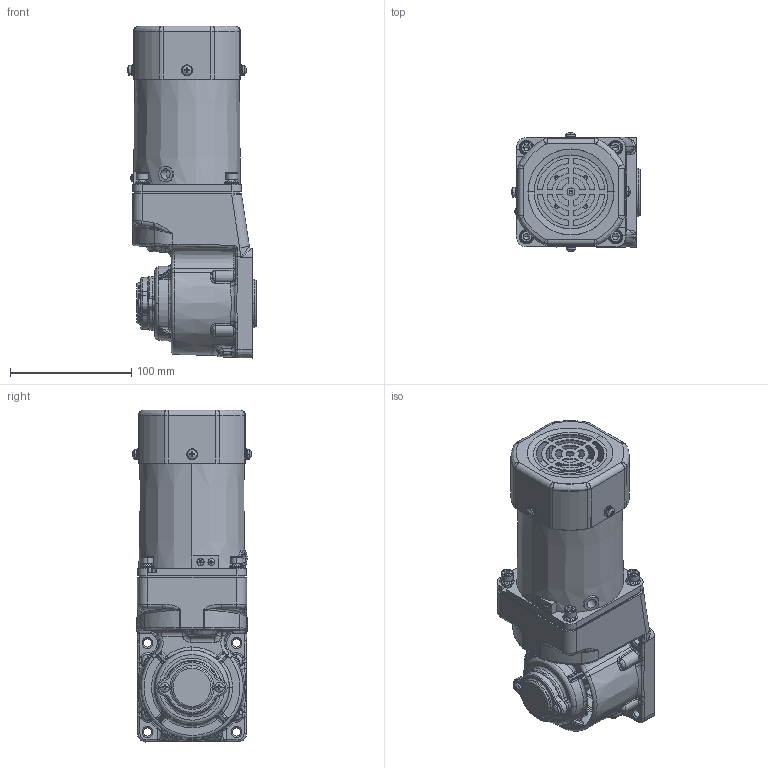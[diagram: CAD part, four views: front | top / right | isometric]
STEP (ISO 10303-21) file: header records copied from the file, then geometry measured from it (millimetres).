
FILE_DESCRIPTION (( 'STEP AP203' ), '1' );
FILE_NAME ('5IK60RGU-CF(5GU3RC-180RC)ÐÂ.STEP', '2022-02-23T06:55:42', ( 'PC' ), ( 'Microsoft' ), 'SwSTEP 2.0', 'SolidWorks 2014', '' );
FILE_SCHEMA (( 'CONFIG_CONTROL_DESIGN' ));
Length unit declared in the file: millimetre
Products named in the file (8): 90諾陑怀堤粣; hexagon socket head cap screws gb_GB_FASTENER_SCREWS_HSHCS M5X12-N; ZD-5GU50RC-505-003綴傷裔1; cross recessed pan head screws gb_GB_CROSS_SCREWS_TYPE1 M4X6-6  H type-N; 5IK60RGU-CF(5GU3RT-180RT); 5IK60RGU-CF(5GU3RC-180RC)陔; 90妗陑俋倛芞; 90RT妗陑怀堤傷裔
Assembly tree (11 placements, depth 2):
  5IK60RGU-CF(5GU3RC-180RC)陔
    90妗陑俋倛芞
    90RT妗陑怀堤傷裔
    90諾陑怀堤粣
    hexagon socket head cap screws gb_GB_FASTENER_SCREWS_HSHCS M5X12-N  x4
    ZD-5GU50RC-505-003綴傷裔1
    cross recessed pan head screws gb_GB_CROSS_SCREWS_TYPE1 M4X6-6  H type-N  x2
    5IK60RGU-CF(5GU3RT-180RT)
Bounding box: 106.75 x 98.11 x 274.04 mm (x, y, z)
Volume: 1478233.9 mm3; surface area: 205950.2 mm2
Topology: 41 solids, 41 shells, 2211 faces, 5483 edges, 3296 vertices
Faces by surface type: plane 654, cylinder 551, bspline 501, cone 417, torus 84, sphere 4
Entity records: 90284 total; most frequent: CARTESIAN_POINT 43091, ORIENTED_EDGE 10262, DIRECTION 8943, EDGE_CURVE 5131, AXIS2_PLACEMENT_3D 3545, VERTEX_POINT 3153, EDGE_LOOP 2256, FACE_OUTER_BOUND 2111
